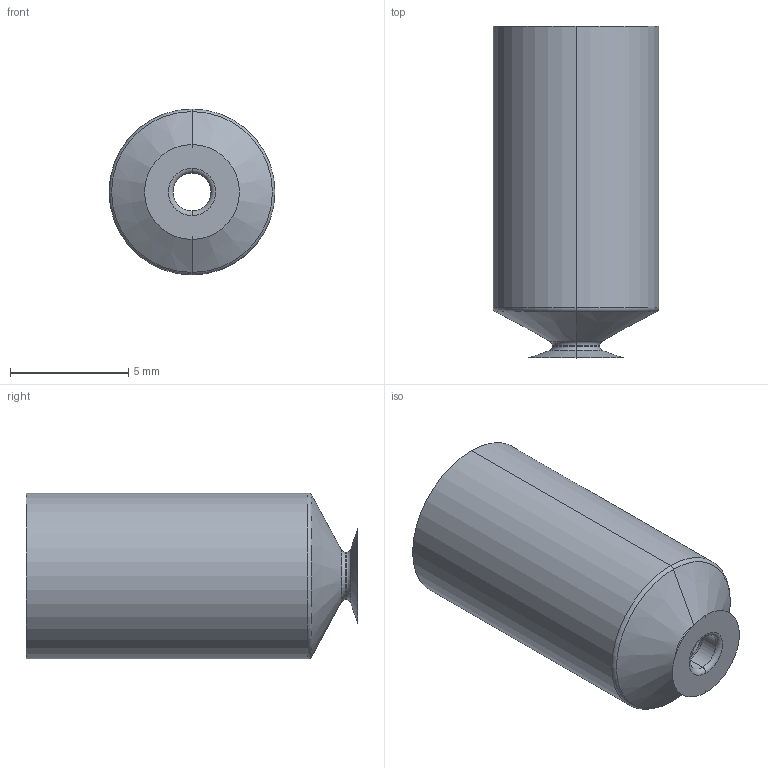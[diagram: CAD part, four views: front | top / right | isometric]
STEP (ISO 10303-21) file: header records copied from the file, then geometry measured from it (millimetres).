
FILE_DESCRIPTION (( 'STEP AP214' ), '1' );
FILE_NAME ('VSR-S4.STEP', '2019-11-18T08:45:08', ( '微软用户' ), ( '微软中国' ), 'SwSTEP 2.0', 'SolidWorks 2016', '' );
FILE_SCHEMA (( 'AUTOMOTIVE_DESIGN' ));
Length unit declared in the file: millimetre
Products named in the file (1): VSR-S4
Bounding box: 7 x 14 x 7 mm (x, y, z)
Volume: 243.1 mm3; surface area: 557.2 mm2
Topology: 1 solids, 1 shells, 28 faces, 56 edges, 30 vertices
Faces by surface type: torus 12, cylinder 8, cone 6, plane 2
Entity records: 764 total; most frequent: DIRECTION 156, CARTESIAN_POINT 115, ORIENTED_EDGE 112, AXIS2_PLACEMENT_3D 71, EDGE_CURVE 56, CIRCLE 42, EDGE_LOOP 30, VERTEX_POINT 30
